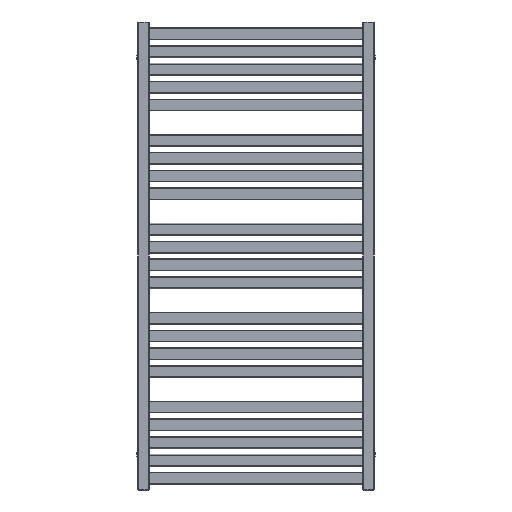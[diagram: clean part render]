
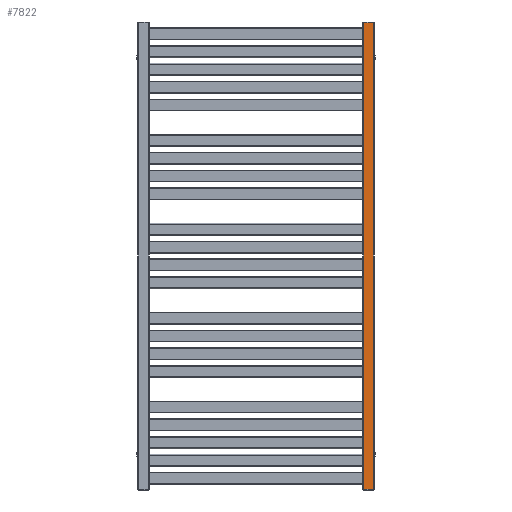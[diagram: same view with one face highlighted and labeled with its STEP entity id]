
A CAD part, front view. The second image highlights one B-rep face of the part: STEP entity #7822.
In plain terms, the highlighted planar face has unit normal (0, -1, 0).
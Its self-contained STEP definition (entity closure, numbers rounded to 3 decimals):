
#6236=CARTESIAN_POINT('',(273.,-15.,1.5));
#6237=VERTEX_POINT('',#6236);
#6294=CARTESIAN_POINT('',(297.0,-15.,1.5));
#6295=VERTEX_POINT('',#6294);
#6303=CARTESIAN_POINT('',(297.0,-15.,1.5));
#6304=DIRECTION('',(-1.0,0.0,0.0));
#6305=VECTOR('',#6304,24.);
#6306=LINE('',#6303,#6305);
#6307=EDGE_CURVE('',#6295,#6237,#6306,.T.);
#7039=CARTESIAN_POINT('',(273.,-15.,1183.5));
#7040=VERTEX_POINT('',#7039);
#7041=CARTESIAN_POINT('',(273.,-15.,1.5));
#7042=DIRECTION('',(0.0,0.0,1.0));
#7043=VECTOR('',#7042,1182.0);
#7044=LINE('',#7041,#7043);
#7045=EDGE_CURVE('',#6237,#7040,#7044,.T.);
#7257=CARTESIAN_POINT('',(297.0,-15.,1183.5));
#7258=VERTEX_POINT('',#7257);
#7274=CARTESIAN_POINT('',(273.,-15.,1183.5));
#7275=DIRECTION('',(1.0,0.0,0.0));
#7276=VECTOR('',#7275,24.);
#7277=LINE('',#7274,#7276);
#7278=EDGE_CURVE('',#7040,#7258,#7277,.T.);
#7802=CARTESIAN_POINT('',(297.0,-15.,1183.5));
#7803=DIRECTION('',(0.0,0.0,-1.0));
#7804=VECTOR('',#7803,1182.0);
#7805=LINE('',#7802,#7804);
#7806=EDGE_CURVE('',#7258,#6295,#7805,.T.);
#7811=CARTESIAN_POINT('',(300.,-15.,0.0));
#7812=DIRECTION('',(0.0,-1.0,0.0));
#7813=DIRECTION('',(0.0,0.0,-1.0));
#7814=AXIS2_PLACEMENT_3D('',#7811,#7812,#7813);
#7815=PLANE('',#7814);
#7816=ORIENTED_EDGE('',*,*,#6307,.F.);
#7817=ORIENTED_EDGE('',*,*,#7806,.F.);
#7818=ORIENTED_EDGE('',*,*,#7278,.F.);
#7819=ORIENTED_EDGE('',*,*,#7045,.F.);
#7820=EDGE_LOOP('',(#7816,#7817,#7818,#7819));
#7821=FACE_OUTER_BOUND('',#7820,.T.);
#7822=ADVANCED_FACE('',(#7821),#7815,.T.);
